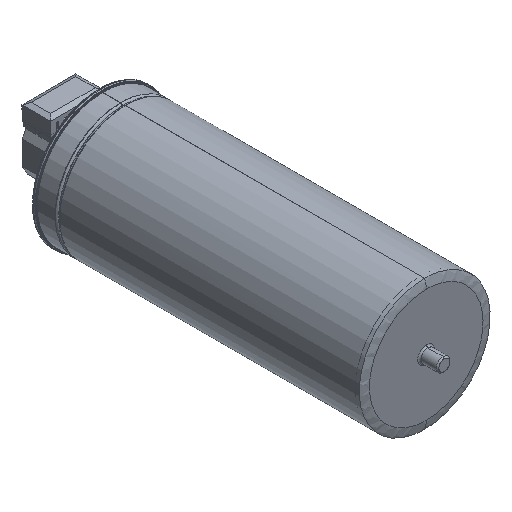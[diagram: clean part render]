
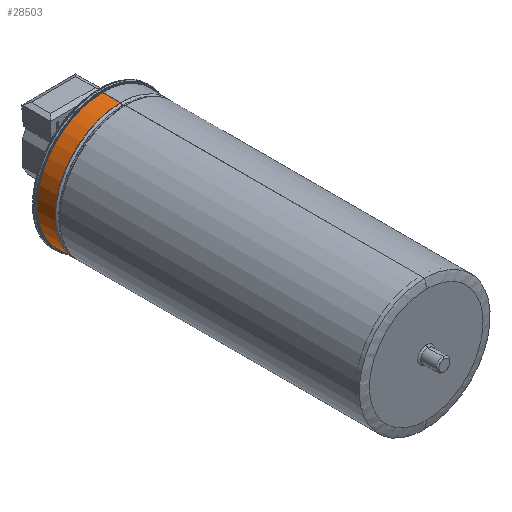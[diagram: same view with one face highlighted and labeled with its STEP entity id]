
A CAD part, isometric view. The second image highlights one B-rep face of the part: STEP entity #28503.
In plain terms, the highlighted free-form (B-spline) face has degree [5, 1] with [11, 2] control points.
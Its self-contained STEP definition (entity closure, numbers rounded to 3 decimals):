
#1705 = CARTESIAN_POINT ( 'NONE',  ( -5.586, 271., -57.996 ) ) ;
#2120 = CARTESIAN_POINT ( 'NONE',  ( -15.059, 271., -56.619 ) ) ;
#2532 = CARTESIAN_POINT ( 'NONE',  ( -58.054, 271., -5.359 ) ) ;
#2955 = CARTESIAN_POINT ( 'NONE',  ( -45.446, 271., -36.641 ) ) ;
#3136 = DIRECTION ( 'NONE',  ( 0., 1., 0. ) ) ;
#3699 = CARTESIAN_POINT ( 'NONE',  ( 3.642, 270.582, 57.886 ) ) ;
#4118 = CARTESIAN_POINT ( 'NONE',  ( -15.271, 270.582, 59.075 ) ) ;
#5634 = VERTEX_POINT ( 'NONE', #23753 ) ;
#7530 = VERTEX_POINT ( 'NONE', #73432 ) ;
#8003 = CARTESIAN_POINT ( 'NONE',  ( -56.175, 271., 15.936 ) ) ;
#8330 = ORIENTED_EDGE ( 'NONE', *, *, #24119, .F. ) ;
#9245 = CARTESIAN_POINT ( 'NONE',  ( -27.477, 271., -51.511 ) ) ;
#9995 = ORIENTED_EDGE ( 'NONE', *, *, #22439, .F. ) ;
#11251 = CARTESIAN_POINT ( 'NONE',  ( -15.271, 289.218, -59.075 ) ) ;
#12792 = B_SPLINE_SURFACE_WITH_KNOTS ( 'NONE', 5, 1, ( 
 ( #73907, #3699 ),
 ( #54572, #4118 ),
 ( #56231, #80214 ),
 ( #17146, #30182 ),
 ( #81046, #22615 ),
 ( #60881, #43196 ),
 ( #81879, #23456 ),
 ( #29344, #68855 ),
 ( #24279, #55821 ),
 ( #11251, #36891 ),
 ( #49938, #75570 ) ),
 .UNSPECIFIED., .F., .F., .F.,
 ( 6, 5, 6 ),
 ( 2, 2 ),
 ( -3.204, -1.571, 0.063 ),
 ( 14.757, 33.393 ),
 .UNSPECIFIED. ) ;
#15876 = B_SPLINE_CURVE_WITH_KNOTS ( 'NONE', 5,
 ( #16802, #56300, #23929, #80696, #30657, #55050, #44093, #24349, #29829, #48763, #55889 ),
 .UNSPECIFIED., .F., .F.,
 ( 6, 5, 6 ),
 ( 0., 0.091, 0.181 ),
 .UNSPECIFIED. ) ;
#16802 = CARTESIAN_POINT ( 'NONE',  ( 0., 288.8, 58. ) ) ;
#17146 = CARTESIAN_POINT ( 'NONE',  ( -50.261, 289.218, 37.9 ) ) ;
#21027 = CARTESIAN_POINT ( 'NONE',  ( 0., 271., 57.999 ) ) ;
#21442 = CARTESIAN_POINT ( 'NONE',  ( 0., 288.8, -58. ) ) ;
#22439 = EDGE_CURVE ( 'NONE', #77015, #82738, #27940, .T. ) ;
#22615 = CARTESIAN_POINT ( 'NONE',  ( -58., 270.582, 18.95 ) ) ;
#23456 = CARTESIAN_POINT ( 'NONE',  ( -58., 270.582, -18.95 ) ) ;
#23753 = CARTESIAN_POINT ( 'NONE',  ( 0., 271., 57.999 ) ) ;
#23929 = CARTESIAN_POINT ( 'NONE',  ( -36.434, 288.8, 50.833 ) ) ;
#24119 = EDGE_CURVE ( 'NONE', #7530, #5634, #74549, .T. ) ;
#24279 = CARTESIAN_POINT ( 'NONE',  ( -34.669, 289.218, -52.541 ) ) ;
#24349 = CARTESIAN_POINT ( 'NONE',  ( -50.845, 288.8, -36.442 ) ) ;
#27940 = LINE ( 'NONE', #53171, #77530 ) ;
#28503 = ADVANCED_FACE ( 'NONE', ( #55404 ), #12792, .T. ) ;
#28598 = CARTESIAN_POINT ( 'NONE',  ( 0., 271., -57.999 ) ) ;
#29344 = CARTESIAN_POINT ( 'NONE',  ( -50.261, 289.218, -37.9 ) ) ;
#29829 = CARTESIAN_POINT ( 'NONE',  ( -36.434, 288.8, -50.833 ) ) ;
#30182 = CARTESIAN_POINT ( 'NONE',  ( -50.261, 270.582, 37.9 ) ) ;
#30657 = CARTESIAN_POINT ( 'NONE',  ( -58., 288.8, 18.221 ) ) ;
#34476 = CARTESIAN_POINT ( 'NONE',  ( -37.209, 271., 44.98 ) ) ;
#36891 = CARTESIAN_POINT ( 'NONE',  ( -15.271, 270.582, -59.075 ) ) ;
#42184 = DIRECTION ( 'NONE',  ( 0., -1., 0. ) ) ;
#43196 = CARTESIAN_POINT ( 'NONE',  ( -58., 270.582, 0. ) ) ;
#44093 = CARTESIAN_POINT ( 'NONE',  ( -58., 288.8, -18.221 ) ) ;
#44223 = ORIENTED_EDGE ( 'NONE', *, *, #76147, .T. ) ;
#46273 = CARTESIAN_POINT ( 'NONE',  ( -51.855, 271., -26.829 ) ) ;
#47098 = CARTESIAN_POINT ( 'NONE',  ( -15.059, 271., 56.619 ) ) ;
#47523 = CARTESIAN_POINT ( 'NONE',  ( -37.209, 271., -44.98 ) ) ;
#48763 = CARTESIAN_POINT ( 'NONE',  ( -18.221, 288.8, -57.999 ) ) ;
#49938 = CARTESIAN_POINT ( 'NONE',  ( 3.642, 289.218, -57.886 ) ) ;
#53171 = CARTESIAN_POINT ( 'NONE',  ( 0., 279.9, -58. ) ) ;
#54117 = EDGE_LOOP ( 'NONE', ( #9995, #82425, #8330, #44223 ) ) ;
#54572 = CARTESIAN_POINT ( 'NONE',  ( -15.271, 289.218, 59.075 ) ) ;
#55050 = CARTESIAN_POINT ( 'NONE',  ( -58., 288.8, 0. ) ) ;
#55404 = FACE_OUTER_BOUND ( 'NONE', #54117, .T. ) ;
#55821 = CARTESIAN_POINT ( 'NONE',  ( -34.669, 270.582, -52.541 ) ) ;
#55889 = CARTESIAN_POINT ( 'NONE',  ( 0., 288.8, -58. ) ) ;
#56231 = CARTESIAN_POINT ( 'NONE',  ( -34.669, 289.218, 52.541 ) ) ;
#56300 = CARTESIAN_POINT ( 'NONE',  ( -18.221, 288.8, 57.999 ) ) ;
#59304 = CARTESIAN_POINT ( 'NONE',  ( -56.175, 271., -15.936 ) ) ;
#59718 = CARTESIAN_POINT ( 'NONE',  ( -27.477, 271., 51.511 ) ) ;
#60881 = CARTESIAN_POINT ( 'NONE',  ( -58., 289.218, 0. ) ) ;
#61070 = CARTESIAN_POINT ( 'NONE',  ( 0., 271., -57.999 ) ) ;
#63256 = VECTOR ( 'NONE', #42184, 1000. ) ;
#66027 = CARTESIAN_POINT ( 'NONE',  ( -58.054, 271., 5.359 ) ) ;
#68855 = CARTESIAN_POINT ( 'NONE',  ( -50.261, 270.582, -37.9 ) ) ;
#71905 = CARTESIAN_POINT ( 'NONE',  ( -5.586, 271., 57.996 ) ) ;
#72739 = CARTESIAN_POINT ( 'NONE',  ( -45.446, 271., 36.641 ) ) ;
#73308 = CARTESIAN_POINT ( 'NONE',  ( 0., 279.9, 58. ) ) ;
#73432 = CARTESIAN_POINT ( 'NONE',  ( 0., 288.8, 58. ) ) ;
#73878 = B_SPLINE_CURVE_WITH_KNOTS ( 'NONE', 3,
 ( #21027, #71905, #47098, #59718, #34476, #72739, #79884, #8003, #66027, #2532, #59304, #46273, #2955, #47523, #9245, #2120, #1705, #28598 ),
 .UNSPECIFIED., .F., .F.,
 ( 4, 1, 1, 1, 1, 1, 1, 1, 1, 1, 1, 1, 1, 1, 1, 4 ),
 ( 0., 0.092, 0.156, 0.22, 0.284, 0.348, 0.412, 0.476, 0.524, 0.588, 0.652, 0.716, 0.78, 0.844, 0.908, 1. ),
 .UNSPECIFIED. ) ;
#73907 = CARTESIAN_POINT ( 'NONE',  ( 3.642, 289.218, 57.886 ) ) ;
#74549 = LINE ( 'NONE', #73308, #63256 ) ;
#75570 = CARTESIAN_POINT ( 'NONE',  ( 3.642, 270.582, -57.886 ) ) ;
#76147 = EDGE_CURVE ( 'NONE', #7530, #82738, #15876, .T. ) ;
#77015 = VERTEX_POINT ( 'NONE', #61070 ) ;
#77530 = VECTOR ( 'NONE', #3136, 1000. ) ;
#79884 = CARTESIAN_POINT ( 'NONE',  ( -51.855, 271., 26.829 ) ) ;
#80214 = CARTESIAN_POINT ( 'NONE',  ( -34.669, 270.582, 52.541 ) ) ;
#80696 = CARTESIAN_POINT ( 'NONE',  ( -50.845, 288.8, 36.442 ) ) ;
#81046 = CARTESIAN_POINT ( 'NONE',  ( -58., 289.218, 18.95 ) ) ;
#81879 = CARTESIAN_POINT ( 'NONE',  ( -58., 289.218, -18.95 ) ) ;
#82425 = ORIENTED_EDGE ( 'NONE', *, *, #82698, .F. ) ;
#82698 = EDGE_CURVE ( 'NONE', #5634, #77015, #73878, .T. ) ;
#82738 = VERTEX_POINT ( 'NONE', #21442 ) ;
